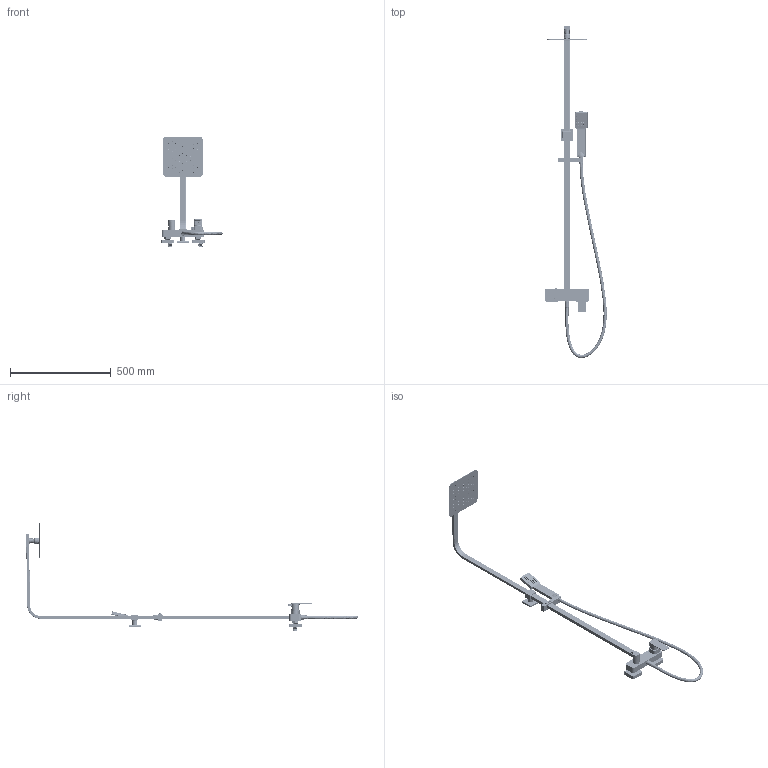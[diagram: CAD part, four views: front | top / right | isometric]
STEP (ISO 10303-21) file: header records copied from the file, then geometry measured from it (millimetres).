
FILE_DESCRIPTION(/* description */ (''),/* implementation_level */ '2;1');
FILE_NAME(/* name */ 'c:\worker\convert-fusion-r09\tmp\job-1\222\output\files\ae5f7149-4bbe-402c-8b0e-e3cd80e671cf\c9d7af90-8fce-4c1b-b6a0-b943cd0a0f5c.stp',/* time_stamp */ '2019-12-13T21:58:34+00:00',/* author */ (''),/* organization */ (''),/* preprocessor_version */ 'ST-DEVELOPER v18',/* originating_system */ 'Autodesk Translation Framework v8.12.0.6',/* authorisation */ '');
FILE_SCHEMA (('AUTOMOTIVE_DESIGN { 1 0 10303 214 3 1 1 }'));
Products named in the file (1): !AP2244
Bounding box: 304.93 x 1647.37 x 549.84 mm (x, y, z)
Volume: 1403239.9 mm3; surface area: 877471 mm2
Topology: 70 solids, 70 shells, 6179 faces, 16627 edges, 9310 vertices
Faces by surface type: cylinder 3241, plane 1636, torus 455, cone 409, sphere 221, bspline 217
Full cylindrical faces by diameter (mm): 0.2 x1616, 1.2 x84, 1.8 x48, 2.2 x6, 2.5 x2, 3 x3, 3.2 x1, 4 x90, 4.2 x85, 4.5 x2, 4.7 x2, 5 x129, 5.2 x2, 5.5 x4, 5.7 x1, 6 x1, 6.7 x1, 7 x3, 7.2 x2, 8 x3, 8.5 x1, 9 x1, 9.2 x2, 9.5 x2, 9.9 x1, 10 x2, 10.1 x1, 10.5 x1, 11.5 x1, 12 x1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
Entity records: 260124 total; most frequent: CARTESIAN_POINT 103849, DIRECTION 34790, ORIENTED_EDGE 32830, EDGE_CURVE 16415, AXIS2_PLACEMENT_3D 14370, VERTEX_POINT 9312, EDGE_LOOP 6938, FACE_OUTER_BOUND 6179
